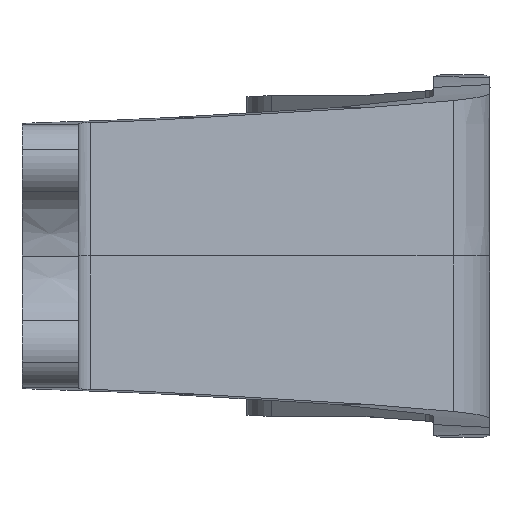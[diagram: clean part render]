
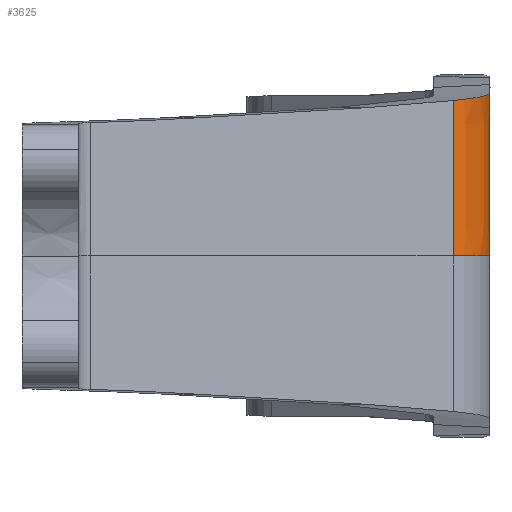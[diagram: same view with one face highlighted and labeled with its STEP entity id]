
A CAD part, front view. The second image highlights one B-rep face of the part: STEP entity #3625.
In plain terms, the highlighted free-form (B-spline) face has degree [5, 5] with [6, 6] control points.
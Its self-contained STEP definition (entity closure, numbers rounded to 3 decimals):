
#2527=VECTOR('Line Direction',#2526,1.) ;
#2526=DIRECTION('Vector Direction',(0.,0.,-1.)) ;
#2522=CARTESIAN_POINT('Vertex',(-354.818,898.118,-2.941)) ;
#2525=CARTESIAN_POINT('Line Origine',(-354.818,898.118,5.778)) ;
#2529=CARTESIAN_POINT('Vertex',(-354.818,898.118,14.497)) ;
#3542=CARTESIAN_POINT('Vertex',(-362.265,894.171,-2.11)) ;
#3546=CARTESIAN_POINT('Control Point',(-362.265,894.171,-2.11)) ;
#3547=CARTESIAN_POINT('Control Point',(-361.301,895.592,-2.248)) ;
#3548=CARTESIAN_POINT('Control Point',(-359.972,896.83,-2.407)) ;
#3549=CARTESIAN_POINT('Control Point',(-358.295,897.715,-2.585)) ;
#3550=CARTESIAN_POINT('Control Point',(-356.531,898.118,-2.765)) ;
#3551=CARTESIAN_POINT('Control Point',(-354.818,898.118,-2.941)) ;
#3565=CARTESIAN_POINT('Control Point',(-362.265,894.171,14.497)) ;
#3566=CARTESIAN_POINT('Control Point',(-361.28,895.623,14.497)) ;
#3567=CARTESIAN_POINT('Control Point',(-359.941,896.834,14.497)) ;
#3568=CARTESIAN_POINT('Control Point',(-358.326,897.69,14.497)) ;
#3569=CARTESIAN_POINT('Control Point',(-356.572,898.118,14.497)) ;
#3570=CARTESIAN_POINT('Control Point',(-354.818,898.118,14.497)) ;
#3571=CARTESIAN_POINT('Control Point',(-362.265,894.171,11.393)) ;
#3572=CARTESIAN_POINT('Control Point',(-361.28,895.623,11.393)) ;
#3573=CARTESIAN_POINT('Control Point',(-359.941,896.834,11.393)) ;
#3574=CARTESIAN_POINT('Control Point',(-358.326,897.69,11.393)) ;
#3575=CARTESIAN_POINT('Control Point',(-356.572,898.118,11.393)) ;
#3576=CARTESIAN_POINT('Control Point',(-354.818,898.118,11.393)) ;
#3577=CARTESIAN_POINT('Control Point',(-362.265,894.171,7.976)) ;
#3578=CARTESIAN_POINT('Control Point',(-361.28,895.623,7.976)) ;
#3579=CARTESIAN_POINT('Control Point',(-359.941,896.834,7.976)) ;
#3580=CARTESIAN_POINT('Control Point',(-358.326,897.69,7.976)) ;
#3581=CARTESIAN_POINT('Control Point',(-356.572,898.118,7.976)) ;
#3582=CARTESIAN_POINT('Control Point',(-354.818,898.118,7.976)) ;
#3583=CARTESIAN_POINT('Control Point',(-362.265,894.171,3.75)) ;
#3584=CARTESIAN_POINT('Control Point',(-361.28,895.623,3.75)) ;
#3585=CARTESIAN_POINT('Control Point',(-359.941,896.834,3.75)) ;
#3586=CARTESIAN_POINT('Control Point',(-358.326,897.69,3.75)) ;
#3587=CARTESIAN_POINT('Control Point',(-356.572,898.118,3.75)) ;
#3588=CARTESIAN_POINT('Control Point',(-354.818,898.118,3.75)) ;
#3589=CARTESIAN_POINT('Control Point',(-362.265,894.171,0.221)) ;
#3590=CARTESIAN_POINT('Control Point',(-361.28,895.623,0.221)) ;
#3591=CARTESIAN_POINT('Control Point',(-359.941,896.834,0.221)) ;
#3592=CARTESIAN_POINT('Control Point',(-358.326,897.69,0.221)) ;
#3593=CARTESIAN_POINT('Control Point',(-356.572,898.118,0.221)) ;
#3594=CARTESIAN_POINT('Control Point',(-354.818,898.118,0.221)) ;
#3595=CARTESIAN_POINT('Control Point',(-362.265,894.171,-2.941)) ;
#3596=CARTESIAN_POINT('Control Point',(-361.28,895.623,-2.941)) ;
#3597=CARTESIAN_POINT('Control Point',(-359.941,896.834,-2.941)) ;
#3598=CARTESIAN_POINT('Control Point',(-358.326,897.69,-2.941)) ;
#3599=CARTESIAN_POINT('Control Point',(-356.572,898.118,-2.941)) ;
#3600=CARTESIAN_POINT('Control Point',(-354.818,898.118,-2.941)) ;
#3602=CARTESIAN_POINT('Control Point',(-362.265,894.171,14.497)) ;
#3603=CARTESIAN_POINT('Control Point',(-362.265,894.171,11.554)) ;
#3604=CARTESIAN_POINT('Control Point',(-362.265,894.171,8.33)) ;
#3605=CARTESIAN_POINT('Control Point',(-362.265,894.171,4.402)) ;
#3606=CARTESIAN_POINT('Control Point',(-362.265,894.171,0.965)) ;
#3607=CARTESIAN_POINT('Control Point',(-362.265,894.171,-2.11)) ;
#3608=CARTESIAN_POINT('Vertex',(-362.265,894.171,14.497)) ;
#3612=CARTESIAN_POINT('Control Point',(-362.265,894.171,14.497)) ;
#3613=CARTESIAN_POINT('Control Point',(-361.28,895.623,14.497)) ;
#3614=CARTESIAN_POINT('Control Point',(-359.941,896.834,14.497)) ;
#3615=CARTESIAN_POINT('Control Point',(-358.326,897.69,14.497)) ;
#3616=CARTESIAN_POINT('Control Point',(-356.572,898.118,14.497)) ;
#3617=CARTESIAN_POINT('Control Point',(-354.818,898.118,14.497)) ;
#2531=EDGE_CURVE('',#2523,#2530,#2528,.F.) ;
#3552=EDGE_CURVE('',#2523,#3543,#3545,.F.) ;
#3610=EDGE_CURVE('',#3543,#3609,#3601,.F.) ;
#3618=EDGE_CURVE('',#2530,#3609,#3611,.F.) ;
#3620=ORIENTED_EDGE('',*,*,#3552,.T.) ;
#3621=ORIENTED_EDGE('',*,*,#3610,.T.) ;
#3622=ORIENTED_EDGE('',*,*,#3618,.F.) ;
#3623=ORIENTED_EDGE('',*,*,#2531,.F.) ;
#2528=LINE('Line',#2525,#2527) ;
#3625=ADVANCED_FACE('\X2\51E04F554F53\X0\.3',(#3624),#3564,.F.) ;
#2523=VERTEX_POINT('',#2522) ;
#2530=VERTEX_POINT('',#2529) ;
#3543=VERTEX_POINT('',#3542) ;
#3609=VERTEX_POINT('',#3608) ;
#3545=B_SPLINE_CURVE_WITH_KNOTS('',5,(#3546,#3547,#3548,#3549,#3550,#3551),.UNSPECIFIED.,.F.,.U.,(6,6),(0.,11.984),.UNSPECIFIED.) ;
#3601=B_SPLINE_CURVE_WITH_KNOTS('',5,(#3602,#3603,#3604,#3605,#3606,#3607),.UNSPECIFIED.,.F.,.U.,(6,6),(19.825,36.358),.UNSPECIFIED.) ;
#3611=B_SPLINE_CURVE_WITH_KNOTS('',5,(#3612,#3613,#3614,#3615,#3616,#3617),.UNSPECIFIED.,.F.,.U.,(6,6),(0.,8.948),.UNSPECIFIED.) ;
#3564=B_SPLINE_SURFACE_WITH_KNOTS('',5,5,((#3565,#3566,#3567,#3568,#3569,#3570),(#3571,#3572,#3573,#3574,#3575,#3576),(#3577,#3578,#3579,#3580,#3581,#3582),(#3583,#3584,#3585,#3586,#3587,#3588),(#3589,#3590,#3591,#3592,#3593,#3594),(#3595,#3596,#3597,#3598,#3599,#3600)),.UNSPECIFIED.,.F.,.F.,.U.,(6,6),(6,6),(19.825,37.263),(0.,8.948),.UNSPECIFIED.) ;
#3619=EDGE_LOOP('',(#3620,#3621,#3622,#3623)) ;
#3624=FACE_OUTER_BOUND('',#3619,.T.) ;
